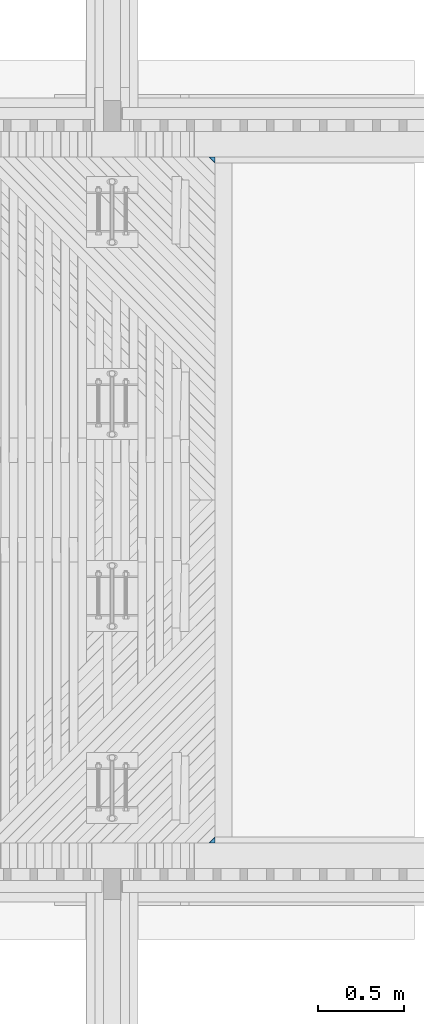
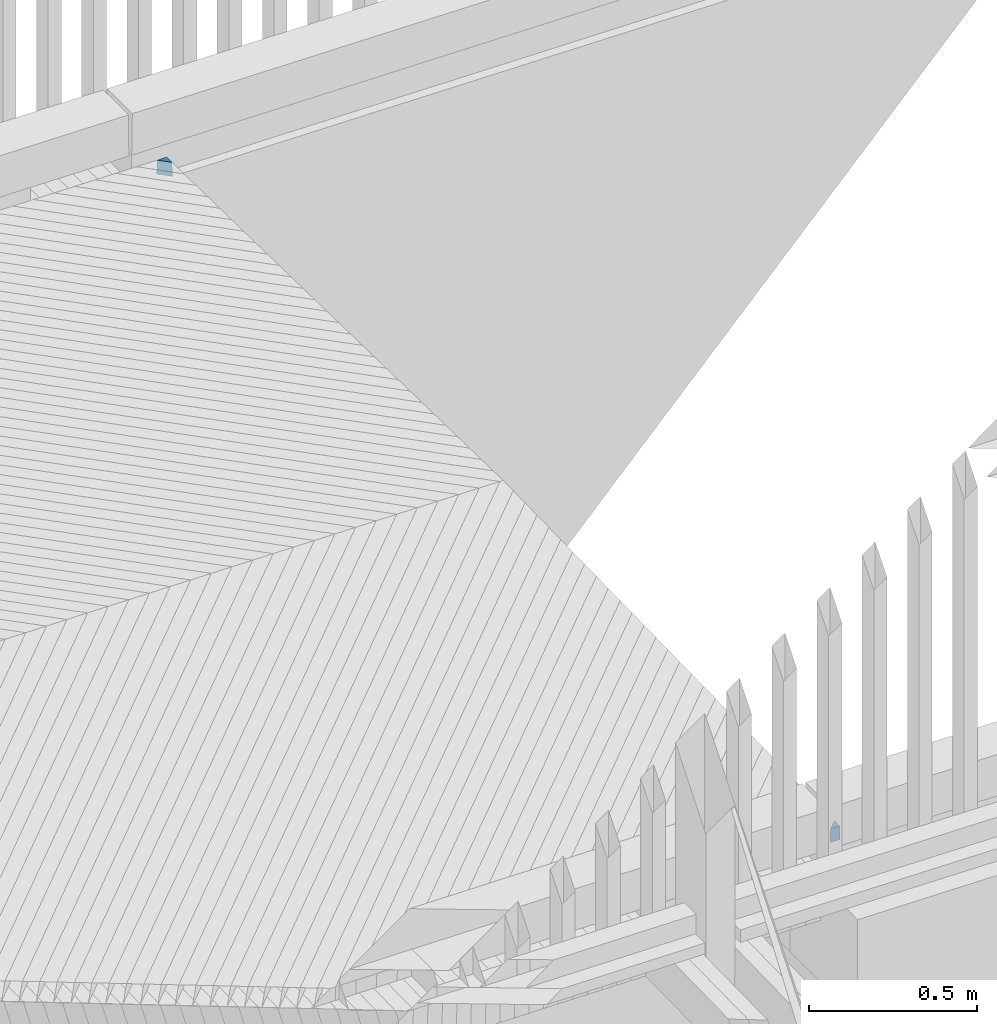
# One storey, part 53 of 53: 2 beams.
"""IFC2X3 building model written with IfcOpenShell, lengths in millimetres."""

from ifc_helpers import new_model, si_unit, frame, origin_with_axes, place, context, subcontext, project, spatial, faceted_brep, material, type_object, element, save


model = new_model("IFC2X3")

# Units and contexts
model_context = context("Model", 3, precision=1e-05, world=origin_with_axes())
body_context = subcontext(model_context, "Body", "Model", "MODEL_VIEW")
ifc_project = project(units=[si_unit("LENGTHUNIT", "METRE", prefix="MILLI"), si_unit("AREAUNIT", "SQUARE_METRE"), si_unit("VOLUMEUNIT", "CUBIC_METRE"), si_unit("MASSUNIT", "GRAM", prefix="KILO"), si_unit("TIMEUNIT", "SECOND"), si_unit("PLANEANGLEUNIT", "RADIAN"), si_unit("SOLIDANGLEUNIT", "STERADIAN"), si_unit("THERMODYNAMICTEMPERATUREUNIT", "DEGREE_CELSIUS"), si_unit("LUMINOUSINTENSITYUNIT", "LUMEN")], contexts=[model_context])

# Site, building, storey
site_placement = place(None, origin_with_axes())
site = spatial("IfcSite", under=ifc_project, at=site_placement, Name="Undefined", CompositionType="ELEMENT")
building_placement = place(site_placement, origin_with_axes())
building = spatial("IfcBuilding", under=site, at=building_placement, Name="Undefined", CompositionType="ELEMENT")
storey_placement = place(building_placement, origin_with_axes())
storey = spatial("IfcBuildingStorey", under=building, at=storey_placement, Name="Undefined", CompositionType="ELEMENT", Elevation=0.0)

# Beams
ifc_material = material(Name="TIMBER/Timber_Undefined")
beam_type = type_object("IfcBeamType", Name="50*50", PredefinedType="NOTDEFINED")
beam_1_placement = place(storey_placement, frame((18602.4451192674, 42364.5001003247, 3142.76655719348), z_axis=(0.706778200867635, -0.706981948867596, -0.0253199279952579), x_axis=(-0.707258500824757, -0.706948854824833, -0.00295460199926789)))
element("IfcBeam", 1, at=beam_1_placement, inside=storey, type_object=beam_type, material=ifc_material, Name="BEAM", ObjectType="50*50", context=body_context, shape_type="Brep", body=[
    faceted_brep([(2854.34301907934, 24.9999999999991, -25.0000000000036), (2805.73564804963, 24.9999999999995, -25.0), (2830.0305095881, 24.9999999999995, -0.688628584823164), (2852.92877373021, -25.0000000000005, -25.0000000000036), (2829.88273146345, -25.0000000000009, -1.95503652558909), (2806.85341784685, -25.0000000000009, -25.0)], [[[0, 1, 2]], [[3, 0, 2, 4]], [[3, 4, 5]], [[0, 3, 5, 1]], [[4, 2, 1, 5]]]),
])
beam_2_placement = place(storey_placement, frame((18602.4451192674, 42365.4998996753, 3142.76655719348), z_axis=(0.706778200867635, 0.706981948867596, -0.0253199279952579), x_axis=(-0.707258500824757, 0.706948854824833, -0.00295460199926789)))
element("IfcBeam", 2, at=beam_2_placement, inside=storey, type_object=beam_type, material=ifc_material, Name="BEAM", ObjectType="50*50", context=body_context, shape_type="Brep", body=[
    faceted_brep([(2854.34301907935, -25.0, -25.0), (2852.92877373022, 25.0, -25.0000000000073), (2829.88273146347, 25.0, -1.95503652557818), (2830.03050958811, -25.0, -0.688628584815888), (2805.73564804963, -25.0, -25.0), (2806.85341784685, 25.0, -25.0)], [[[0, 1, 2, 3]], [[0, 3, 4]], [[1, 0, 4, 5]], [[1, 5, 2]], [[4, 3, 2, 5]]]),
])

save(model, "model.ifc")
